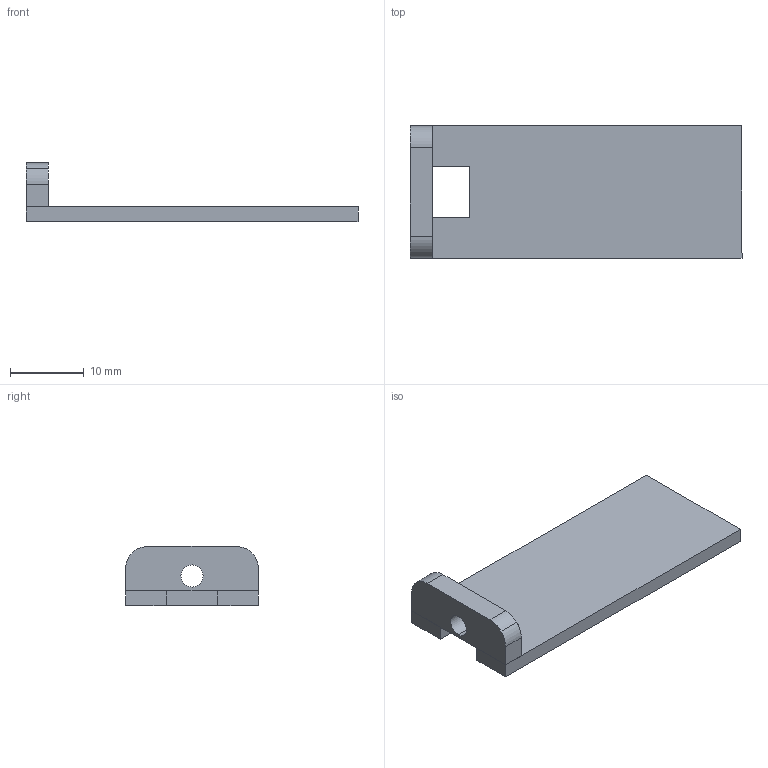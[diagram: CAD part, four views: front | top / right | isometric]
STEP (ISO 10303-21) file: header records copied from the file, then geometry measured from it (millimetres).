
FILE_DESCRIPTION(('STEP AP214'),'1');
FILE_NAME('tmp0.STEP','2026-07-10T11:01:54',(' '),(' '),'Spatial InterOp 3D',' ',' ');
FILE_SCHEMA(('AUTOMOTIVE_DESIGN { 1 0 10303 214 1 1 1 1 }'));
Length unit declared in the file: millimetre
Products named in the file (1): Thickness Data
Bounding box: 45 x 18 x 8 mm (x, y, z)
Volume: 1799.2 mm3; surface area: 2150.7 mm2
Topology: 2 solids, 2 shells, 22 faces, 54 edges, 36 vertices
Faces by surface type: plane 16, cylinder 6
Entity records: 691 total; most frequent: CARTESIAN_POINT 114, DIRECTION 114, ORIENTED_EDGE 108, EDGE_CURVE 54, LINE 42, VECTOR 42, AXIS2_PLACEMENT_3D 36, VERTEX_POINT 36
